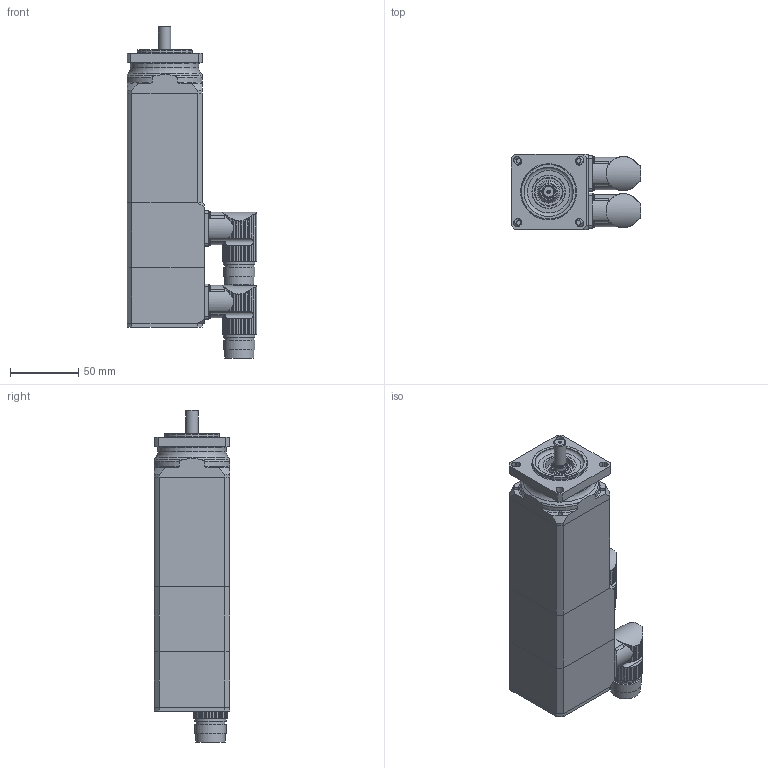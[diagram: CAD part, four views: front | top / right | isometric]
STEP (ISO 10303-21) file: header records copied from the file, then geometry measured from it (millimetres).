
FILE_DESCRIPTION(/* description */ (''),/* implementation_level */ '2;1');
FILE_NAME(/* name */ 'MR 7414-Ux-Nxxx-G##-A0D-M0',/* time_stamp */ '2007-07-13T09:50:00+01:00',/* author */ (''),/* organization */ ('ESR Pollmeier GmbH'),/* preprocessor_version */ 'ST-DEVELOPER v8',/* originating_system */ 'UNIGRAPHICS SOLUTIONS - UNIGRAPHICS 18.0',/* authorisation */ '');
FILE_SCHEMA (('AUTOMOTIVE_DESIGN { 1 2 10303 214 0 1 1 1 }'));
Length unit declared in the file: millimetre
Products named in the file (12): Gehaeuse_SY1_80_0; iso2009-m3x8_A; 064224_0; 014258_0; 064235_0; 111004_0; Rotor_SY1_0; 111001_0; iso1580-m2.5x6_A; 014250_0; DIN3760_org_A10x24x7_0; MR7414-Ux-Nxxx-G##-A0D-M0_0
Assembly tree (21 placements, depth 2):
  MR7414-Ux-Nxxx-G##-A0D-M0_0
    DIN3760_org_A10x24x7_0
    014250_0
    iso1580-m2.5x6_A  x8
    111001_0
    Rotor_SY1_0
    111004_0
    064235_0
    014258_0
    064224_0
    iso2009-m3x8_A  x4
    Gehaeuse_SY1_80_0
Bounding box: 94.99 x 55 x 242.65 mm (x, y, z)
Volume: 276418.1 mm3; surface area: 138502.6 mm2
Topology: 21 solids, 21 shells, 856 faces, 2269 edges, 1484 vertices
Faces by surface type: cylinder 488, plane 222, cone 78, torus 39, sphere 25, bspline 4
Full cylindrical faces by diameter (mm): 1 x21, 1.5 x1, 1.948 x8, 2 x4, 2.135 x8, 2.459 x7, 2.5 x8, 2.7 x8, 3 x4, 3.3 x3, 3.4 x3, 3.432 x4, 3.5 x4, 4.5 x4, 6 x7, 6.5 x3, 8 x4, 8.52 x1, 9 x1, 10 x2, 10.3 x1, 10.5 x1, 15 x2, 18 x4, 20 x5, 21 x3, 21.5 x2, 22 x1, 23 x4, 24 x2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
Entity records: 23043 total; most frequent: CARTESIAN_POINT 5628, DIRECTION 3540, ORIENTED_EDGE 3280, EDGE_CURVE 1640, AXIS2_PLACEMENT_3D 1507, VERTEX_POINT 1201, EDGE_LOOP 1082, CIRCLE 753
